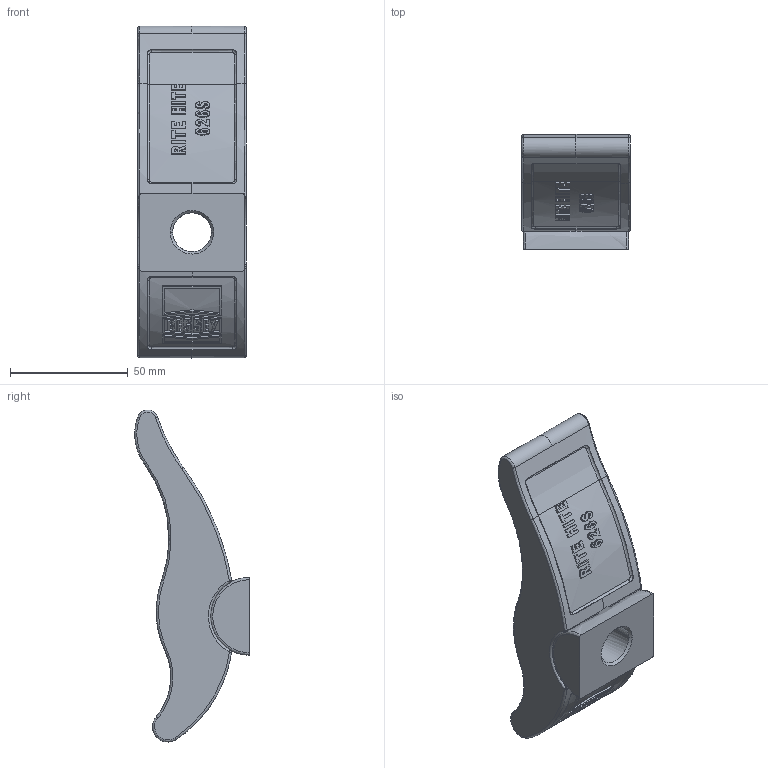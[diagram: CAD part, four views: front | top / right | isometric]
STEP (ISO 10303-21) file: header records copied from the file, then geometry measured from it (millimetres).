
FILE_DESCRIPTION( ( 'STEP AP214' ), '1' );
FILE_NAME( 'Z:/Klein/11_2012/Rite Hite_Drew/626S.stp', ' ', ( ' ' ), ( ' ' ), 'PSStep 11.0', ' ', ' ' );
FILE_SCHEMA( ( 'AUTOMOTIVE_DESIGN { 1 0 10303 214 1 1 1 1 }' ) );
Length unit declared in the file: metre
Products named in the file (2): 1; 2
Bounding box: 46 x 48.67 x 140.85 mm (x, y, z)
Volume: 125247.7 mm3; surface area: 27906.6 mm2
Topology: 2 solids, 2 shells, 742 faces, 2066 edges, 1353 vertices
Faces by surface type: bspline 742
Entity records: 36836 total; most frequent: CARTESIAN_POINT 18520, ORIENTED_EDGE 4128, EDGE_CURVE 2064, B_SPLINE_CURVE_WITH_KNOTS 1898, VERTEX_POINT 1353, EDGE_LOOP 773, STYLED_ITEM 742, PRESENTATION_STYLE_ASSIGNMENT 742
